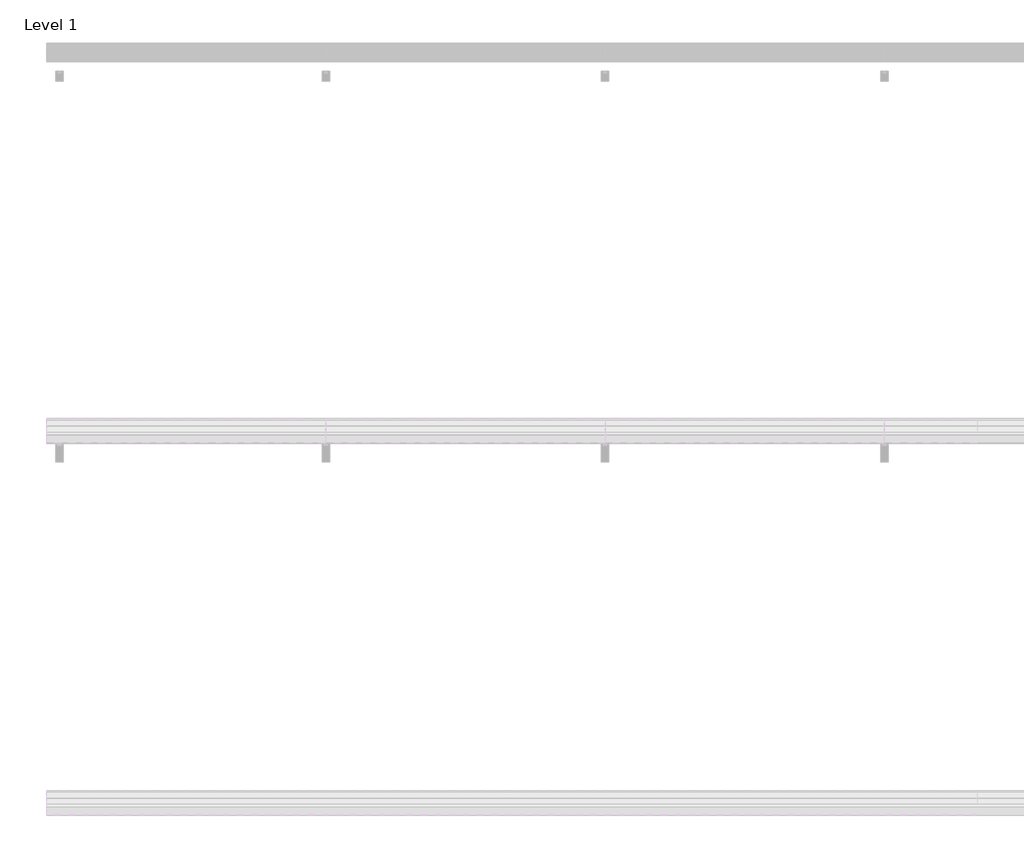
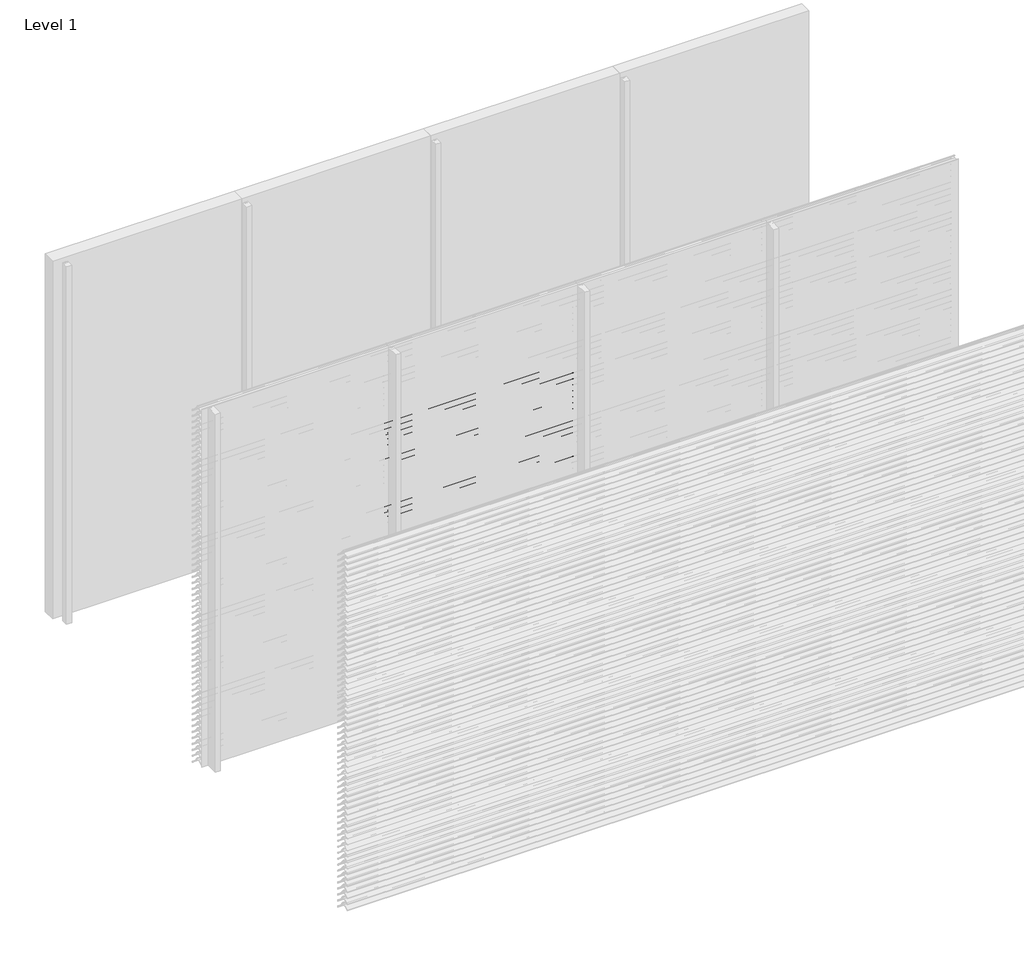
# One storey, part 62 of 173: 17 proxies.
"""IFC4 building model written with IfcOpenShell, lengths in millimetres."""

from ifc_helpers import new_model, si_unit, point, frame, frame_2d, origin, place, context, project, spatial, polyline, circle_curve, trimmed, segment, composite_curve, outline, extrude, element, save

model = new_model("IFC4")

# Units and contexts
model_context = context("Model", 3, world=origin())
ifc_project = project(units=[si_unit("LENGTHUNIT", "METRE", prefix="MILLI")], contexts=[model_context])

# Site, building, storey
site = spatial("IfcSite", under=ifc_project)
building = spatial("IfcBuilding", under=site)
storey = spatial("IfcBuildingStorey", under=building, Name="Level 1", Elevation=0.0)

# Proxies
placement = place(None, origin())
element("IfcBuildingElementProxy", 1, Name="Wall Sweeps", at=placement, inside=storey, context=model_context, shape_type="SweptSolid", body=[
    extrude(outline(composite_curve([segment(polyline([(-35998.0, 2309.1474905), (-35998.0, 2311.6227417)]), True, "CONTINUOUS"), segment(trimmed(circle_curve(frame_2d((-35951.2682172, 2266.2200208)), 65.1557103), [point((-35998.0, 2311.6227417))], [point((-35954.4014323, 2331.3003524))], False, "CARTESIAN"), True, "CONTINUOUS"), segment(polyline([(-35954.4014323, 2331.3003524), (-35934.8315836, 2331.3003524)]), True, "CONTINUOUS"), segment(trimmed(circle_curve(frame_2d((-35732.7329489, 2478.5533172)), 250.0545817), [point((-35934.8315836, 2331.3003524))], [point((-35941.4452143, 2340.8344583))], False, "CARTESIAN"), True, "CONTINUOUS"), segment(trimmed(circle_curve(frame_2d((-35953.2981792, 2335.1737835)), 13.1352966), [point((-35941.4452143, 2340.8344583))], [point((-35953.8171475, 2348.298824))], True, "CARTESIAN"), True, "CONTINUOUS"), segment(polyline([(-35953.8171475, 2348.298824), (-35953.8171475, 2350.0)]), True, "CONTINUOUS"), segment(trimmed(circle_curve(frame_2d((-35953.2981792, 2335.1737835)), 14.8352966), [point((-35953.8171475, 2350.0))], [point((-35939.9637661, 2341.6760487))], False, "CARTESIAN"), True, "CONTINUOUS"), segment(trimmed(circle_curve(frame_2d((-35732.7329489, 2478.5533172)), 248.3545817), [point((-35939.9637661, 2341.6760487))], [point((-35873.8787895, 2274.2059416))], True, "CARTESIAN"), True, "CONTINUOUS"), segment(trimmed(circle_curve(frame_2d((-35883.8147537, 2261.6649442)), 16.0), [point((-35873.8787895, 2274.2059416))], [point((-35867.8648347, 2260.4))], False, "CARTESIAN"), True, "CONTINUOUS"), segment(polyline([(-35867.8648347, 2260.4), (-35869.6712069, 2260.4)]), True, "CONTINUOUS"), segment(trimmed(circle_curve(frame_2d((-35883.8147537, 2261.6649442)), 14.2), [point((-35869.6712069, 2260.4))], [point((-35874.9518628, 2272.7594998))], True, "CARTESIAN"), True, "CONTINUOUS"), segment(trimmed(circle_curve(frame_2d((-35732.7329489, 2478.5533172)), 250.1545817), [point((-35874.9518628, 2272.7594998))], [point((-35933.7064024, 2329.6003524))], False, "CARTESIAN"), True, "CONTINUOUS"), segment(polyline([(-35933.7064024, 2329.6003524), (-35954.3602632, 2329.6003524)]), True, "CONTINUOUS"), segment(trimmed(circle_curve(frame_2d((-35951.2682172, 2266.2200208)), 63.4557103), [point((-35954.3602632, 2329.6003524))], [point((-35998.0, 2309.1474905))], True, "CARTESIAN"), True, "CONTINUOUS")], self_intersect=False)), frame((1500.0, 0.0, 0.0), z_axis=(1.0, 0.0, 0.0), x_axis=(0.0, 1.0, 0.0)), (0.0, 0.0, 1.0), 1500.0),
])
element("IfcBuildingElementProxy", 2, Name="Wall Sweeps", at=placement, inside=storey, context=model_context, shape_type="SweptSolid", body=[
    extrude(outline(composite_curve([segment(polyline([(-35998.0, 2259.1474905), (-35998.0, 2261.6227417)]), True, "CONTINUOUS"), segment(trimmed(circle_curve(frame_2d((-35951.2682172, 2216.2200208)), 65.1557103), [point((-35998.0, 2261.6227417))], [point((-35954.4014323, 2281.3003524))], False, "CARTESIAN"), True, "CONTINUOUS"), segment(polyline([(-35954.4014323, 2281.3003524), (-35934.8315836, 2281.3003524)]), True, "CONTINUOUS"), segment(trimmed(circle_curve(frame_2d((-35732.7329489, 2428.5533172)), 250.0545817), [point((-35934.8315836, 2281.3003524))], [point((-35941.4452143, 2290.8344583))], False, "CARTESIAN"), True, "CONTINUOUS"), segment(trimmed(circle_curve(frame_2d((-35953.2981792, 2285.1737835)), 13.1352966), [point((-35941.4452143, 2290.8344583))], [point((-35953.8171475, 2298.298824))], True, "CARTESIAN"), True, "CONTINUOUS"), segment(polyline([(-35953.8171475, 2298.298824), (-35953.8171475, 2300.0)]), True, "CONTINUOUS"), segment(trimmed(circle_curve(frame_2d((-35953.2981792, 2285.1737835)), 14.8352966), [point((-35953.8171475, 2300.0))], [point((-35939.9637661, 2291.6760487))], False, "CARTESIAN"), True, "CONTINUOUS"), segment(trimmed(circle_curve(frame_2d((-35732.7329489, 2428.5533172)), 248.3545817), [point((-35939.9637661, 2291.6760487))], [point((-35873.8787895, 2224.2059416))], True, "CARTESIAN"), True, "CONTINUOUS"), segment(trimmed(circle_curve(frame_2d((-35883.8147537, 2211.6649442)), 16.0), [point((-35873.8787895, 2224.2059416))], [point((-35867.8648347, 2210.4))], False, "CARTESIAN"), True, "CONTINUOUS"), segment(polyline([(-35867.8648347, 2210.4), (-35869.6712069, 2210.4)]), True, "CONTINUOUS"), segment(trimmed(circle_curve(frame_2d((-35883.8147537, 2211.6649442)), 14.2), [point((-35869.6712069, 2210.4))], [point((-35874.9518628, 2222.7594998))], True, "CARTESIAN"), True, "CONTINUOUS"), segment(trimmed(circle_curve(frame_2d((-35732.7329489, 2428.5533172)), 250.1545817), [point((-35874.9518628, 2222.7594998))], [point((-35933.7064024, 2279.6003524))], False, "CARTESIAN"), True, "CONTINUOUS"), segment(polyline([(-35933.7064024, 2279.6003524), (-35954.3602632, 2279.6003524)]), True, "CONTINUOUS"), segment(trimmed(circle_curve(frame_2d((-35951.2682172, 2216.2200208)), 63.4557103), [point((-35954.3602632, 2279.6003524))], [point((-35998.0, 2259.1474905))], True, "CARTESIAN"), True, "CONTINUOUS")], self_intersect=False)), frame((1500.0, 0.0, 0.0), z_axis=(1.0, 0.0, 0.0), x_axis=(0.0, 1.0, 0.0)), (0.0, 0.0, 1.0), 1500.0),
])
element("IfcBuildingElementProxy", 3, Name="Wall Sweeps", at=placement, inside=storey, context=model_context, shape_type="SweptSolid", body=[
    extrude(outline(composite_curve([segment(polyline([(-35998.0, 2209.1474905), (-35998.0, 2211.6227417)]), True, "CONTINUOUS"), segment(trimmed(circle_curve(frame_2d((-35951.2682172, 2166.2200208)), 65.1557103), [point((-35998.0, 2211.6227417))], [point((-35954.4014323, 2231.3003524))], False, "CARTESIAN"), True, "CONTINUOUS"), segment(polyline([(-35954.4014323, 2231.3003524), (-35934.8315836, 2231.3003524)]), True, "CONTINUOUS"), segment(trimmed(circle_curve(frame_2d((-35732.7329489, 2378.5533172)), 250.0545817), [point((-35934.8315836, 2231.3003524))], [point((-35941.4452143, 2240.8344583))], False, "CARTESIAN"), True, "CONTINUOUS"), segment(trimmed(circle_curve(frame_2d((-35953.2981792, 2235.1737835)), 13.1352966), [point((-35941.4452143, 2240.8344583))], [point((-35953.8171475, 2248.298824))], True, "CARTESIAN"), True, "CONTINUOUS"), segment(polyline([(-35953.8171475, 2248.298824), (-35953.8171475, 2250.0)]), True, "CONTINUOUS"), segment(trimmed(circle_curve(frame_2d((-35953.2981792, 2235.1737835)), 14.8352966), [point((-35953.8171475, 2250.0))], [point((-35939.9637661, 2241.6760487))], False, "CARTESIAN"), True, "CONTINUOUS"), segment(trimmed(circle_curve(frame_2d((-35732.7329489, 2378.5533172)), 248.3545817), [point((-35939.9637661, 2241.6760487))], [point((-35873.8787895, 2174.2059416))], True, "CARTESIAN"), True, "CONTINUOUS"), segment(trimmed(circle_curve(frame_2d((-35883.8147537, 2161.6649442)), 16.0), [point((-35873.8787895, 2174.2059416))], [point((-35867.8648347, 2160.4))], False, "CARTESIAN"), True, "CONTINUOUS"), segment(polyline([(-35867.8648347, 2160.4), (-35869.6712069, 2160.4)]), True, "CONTINUOUS"), segment(trimmed(circle_curve(frame_2d((-35883.8147537, 2161.6649442)), 14.2), [point((-35869.6712069, 2160.4))], [point((-35874.9518628, 2172.7594998))], True, "CARTESIAN"), True, "CONTINUOUS"), segment(trimmed(circle_curve(frame_2d((-35732.7329489, 2378.5533172)), 250.1545817), [point((-35874.9518628, 2172.7594998))], [point((-35933.7064024, 2229.6003524))], False, "CARTESIAN"), True, "CONTINUOUS"), segment(polyline([(-35933.7064024, 2229.6003524), (-35954.3602632, 2229.6003524)]), True, "CONTINUOUS"), segment(trimmed(circle_curve(frame_2d((-35951.2682172, 2166.2200208)), 63.4557103), [point((-35954.3602632, 2229.6003524))], [point((-35998.0, 2209.1474905))], True, "CARTESIAN"), True, "CONTINUOUS")], self_intersect=False)), frame((1500.0, 0.0, 0.0), z_axis=(1.0, 0.0, 0.0), x_axis=(0.0, 1.0, 0.0)), (0.0, 0.0, 1.0), 1500.0),
])
element("IfcBuildingElementProxy", 4, Name="Wall Sweeps", at=placement, inside=storey, context=model_context, shape_type="SweptSolid", body=[
    extrude(outline(composite_curve([segment(polyline([(-35998.0, 2159.1474905), (-35998.0, 2161.6227417)]), True, "CONTINUOUS"), segment(trimmed(circle_curve(frame_2d((-35951.2682172, 2116.2200208)), 65.1557103), [point((-35998.0, 2161.6227417))], [point((-35954.4014323, 2181.3003524))], False, "CARTESIAN"), True, "CONTINUOUS"), segment(polyline([(-35954.4014323, 2181.3003524), (-35934.8315836, 2181.3003524)]), True, "CONTINUOUS"), segment(trimmed(circle_curve(frame_2d((-35732.7329489, 2328.5533172)), 250.0545817), [point((-35934.8315836, 2181.3003524))], [point((-35941.4452143, 2190.8344583))], False, "CARTESIAN"), True, "CONTINUOUS"), segment(trimmed(circle_curve(frame_2d((-35953.2981792, 2185.1737835)), 13.1352966), [point((-35941.4452143, 2190.8344583))], [point((-35953.8171475, 2198.298824))], True, "CARTESIAN"), True, "CONTINUOUS"), segment(polyline([(-35953.8171475, 2198.298824), (-35953.8171475, 2200.0)]), True, "CONTINUOUS"), segment(trimmed(circle_curve(frame_2d((-35953.2981792, 2185.1737835)), 14.8352966), [point((-35953.8171475, 2200.0))], [point((-35939.9637661, 2191.6760487))], False, "CARTESIAN"), True, "CONTINUOUS"), segment(trimmed(circle_curve(frame_2d((-35732.7329489, 2328.5533172)), 248.3545817), [point((-35939.9637661, 2191.6760487))], [point((-35873.8787895, 2124.2059416))], True, "CARTESIAN"), True, "CONTINUOUS"), segment(trimmed(circle_curve(frame_2d((-35883.8147537, 2111.6649442)), 16.0), [point((-35873.8787895, 2124.2059416))], [point((-35867.8648347, 2110.4))], False, "CARTESIAN"), True, "CONTINUOUS"), segment(polyline([(-35867.8648347, 2110.4), (-35869.6712069, 2110.4)]), True, "CONTINUOUS"), segment(trimmed(circle_curve(frame_2d((-35883.8147537, 2111.6649442)), 14.2), [point((-35869.6712069, 2110.4))], [point((-35874.9518628, 2122.7594998))], True, "CARTESIAN"), True, "CONTINUOUS"), segment(trimmed(circle_curve(frame_2d((-35732.7329489, 2328.5533172)), 250.1545817), [point((-35874.9518628, 2122.7594998))], [point((-35933.7064024, 2179.6003524))], False, "CARTESIAN"), True, "CONTINUOUS"), segment(polyline([(-35933.7064024, 2179.6003524), (-35954.3602632, 2179.6003524)]), True, "CONTINUOUS"), segment(trimmed(circle_curve(frame_2d((-35951.2682172, 2116.2200208)), 63.4557103), [point((-35954.3602632, 2179.6003524))], [point((-35998.0, 2159.1474905))], True, "CARTESIAN"), True, "CONTINUOUS")], self_intersect=False)), frame((1500.0, 0.0, 0.0), z_axis=(1.0, 0.0, 0.0), x_axis=(0.0, 1.0, 0.0)), (0.0, 0.0, 1.0), 1500.0),
])
element("IfcBuildingElementProxy", 5, Name="Wall Sweeps", at=placement, inside=storey, context=model_context, shape_type="SweptSolid", body=[
    extrude(outline(composite_curve([segment(polyline([(-35998.0, 2109.1474905), (-35998.0, 2111.6227417)]), True, "CONTINUOUS"), segment(trimmed(circle_curve(frame_2d((-35951.2682172, 2066.2200208)), 65.1557103), [point((-35998.0, 2111.6227417))], [point((-35954.4014323, 2131.3003524))], False, "CARTESIAN"), True, "CONTINUOUS"), segment(polyline([(-35954.4014323, 2131.3003524), (-35934.8315836, 2131.3003524)]), True, "CONTINUOUS"), segment(trimmed(circle_curve(frame_2d((-35732.7329489, 2278.5533172)), 250.0545817), [point((-35934.8315836, 2131.3003524))], [point((-35941.4452143, 2140.8344583))], False, "CARTESIAN"), True, "CONTINUOUS"), segment(trimmed(circle_curve(frame_2d((-35953.2981792, 2135.1737835)), 13.1352966), [point((-35941.4452143, 2140.8344583))], [point((-35953.8171475, 2148.298824))], True, "CARTESIAN"), True, "CONTINUOUS"), segment(polyline([(-35953.8171475, 2148.298824), (-35953.8171475, 2150.0)]), True, "CONTINUOUS"), segment(trimmed(circle_curve(frame_2d((-35953.2981792, 2135.1737835)), 14.8352966), [point((-35953.8171475, 2150.0))], [point((-35939.9637661, 2141.6760487))], False, "CARTESIAN"), True, "CONTINUOUS"), segment(trimmed(circle_curve(frame_2d((-35732.7329489, 2278.5533172)), 248.3545817), [point((-35939.9637661, 2141.6760487))], [point((-35873.8787895, 2074.2059416))], True, "CARTESIAN"), True, "CONTINUOUS"), segment(trimmed(circle_curve(frame_2d((-35883.8147537, 2061.6649442)), 16.0), [point((-35873.8787895, 2074.2059416))], [point((-35867.8648347, 2060.4))], False, "CARTESIAN"), True, "CONTINUOUS"), segment(polyline([(-35867.8648347, 2060.4), (-35869.6712069, 2060.4)]), True, "CONTINUOUS"), segment(trimmed(circle_curve(frame_2d((-35883.8147537, 2061.6649442)), 14.2), [point((-35869.6712069, 2060.4))], [point((-35874.9518628, 2072.7594998))], True, "CARTESIAN"), True, "CONTINUOUS"), segment(trimmed(circle_curve(frame_2d((-35732.7329489, 2278.5533172)), 250.1545817), [point((-35874.9518628, 2072.7594998))], [point((-35933.7064024, 2129.6003524))], False, "CARTESIAN"), True, "CONTINUOUS"), segment(polyline([(-35933.7064024, 2129.6003524), (-35954.3602632, 2129.6003524)]), True, "CONTINUOUS"), segment(trimmed(circle_curve(frame_2d((-35951.2682172, 2066.2200208)), 63.4557103), [point((-35954.3602632, 2129.6003524))], [point((-35998.0, 2109.1474905))], True, "CARTESIAN"), True, "CONTINUOUS")], self_intersect=False)), frame((1500.0, 0.0, 0.0), z_axis=(1.0, 0.0, 0.0), x_axis=(0.0, 1.0, 0.0)), (0.0, 0.0, 1.0), 1500.0),
])
element("IfcBuildingElementProxy", 6, Name="Wall Sweeps", at=placement, inside=storey, context=model_context, shape_type="SweptSolid", body=[
    extrude(outline(composite_curve([segment(polyline([(-35998.0, 2059.1474905), (-35998.0, 2061.6227417)]), True, "CONTINUOUS"), segment(trimmed(circle_curve(frame_2d((-35951.2682172, 2016.2200208)), 65.1557103), [point((-35998.0, 2061.6227417))], [point((-35954.4014323, 2081.3003524))], False, "CARTESIAN"), True, "CONTINUOUS"), segment(polyline([(-35954.4014323, 2081.3003524), (-35934.8315836, 2081.3003524)]), True, "CONTINUOUS"), segment(trimmed(circle_curve(frame_2d((-35732.7329489, 2228.5533172)), 250.0545817), [point((-35934.8315836, 2081.3003524))], [point((-35941.4452143, 2090.8344583))], False, "CARTESIAN"), True, "CONTINUOUS"), segment(trimmed(circle_curve(frame_2d((-35953.2981792, 2085.1737835)), 13.1352966), [point((-35941.4452143, 2090.8344583))], [point((-35953.8171475, 2098.298824))], True, "CARTESIAN"), True, "CONTINUOUS"), segment(polyline([(-35953.8171475, 2098.298824), (-35953.8171475, 2100.0)]), True, "CONTINUOUS"), segment(trimmed(circle_curve(frame_2d((-35953.2981792, 2085.1737835)), 14.8352966), [point((-35953.8171475, 2100.0))], [point((-35939.9637661, 2091.6760487))], False, "CARTESIAN"), True, "CONTINUOUS"), segment(trimmed(circle_curve(frame_2d((-35732.7329489, 2228.5533172)), 248.3545817), [point((-35939.9637661, 2091.6760487))], [point((-35873.8787895, 2024.2059416))], True, "CARTESIAN"), True, "CONTINUOUS"), segment(trimmed(circle_curve(frame_2d((-35883.8147537, 2011.6649442)), 16.0), [point((-35873.8787895, 2024.2059416))], [point((-35867.8648347, 2010.4))], False, "CARTESIAN"), True, "CONTINUOUS"), segment(polyline([(-35867.8648347, 2010.4), (-35869.6712069, 2010.4)]), True, "CONTINUOUS"), segment(trimmed(circle_curve(frame_2d((-35883.8147537, 2011.6649442)), 14.2), [point((-35869.6712069, 2010.4))], [point((-35874.9518628, 2022.7594998))], True, "CARTESIAN"), True, "CONTINUOUS"), segment(trimmed(circle_curve(frame_2d((-35732.7329489, 2228.5533172)), 250.1545817), [point((-35874.9518628, 2022.7594998))], [point((-35933.7064024, 2079.6003524))], False, "CARTESIAN"), True, "CONTINUOUS"), segment(polyline([(-35933.7064024, 2079.6003524), (-35954.3602632, 2079.6003524)]), True, "CONTINUOUS"), segment(trimmed(circle_curve(frame_2d((-35951.2682172, 2016.2200208)), 63.4557103), [point((-35954.3602632, 2079.6003524))], [point((-35998.0, 2059.1474905))], True, "CARTESIAN"), True, "CONTINUOUS")], self_intersect=False)), frame((1500.0, 0.0, 0.0), z_axis=(1.0, 0.0, 0.0), x_axis=(0.0, 1.0, 0.0)), (0.0, 0.0, 1.0), 1500.0),
])
element("IfcBuildingElementProxy", 7, Name="Wall Sweeps", at=placement, inside=storey, context=model_context, shape_type="SweptSolid", body=[
    extrude(outline(composite_curve([segment(polyline([(-35998.0, 2009.1474905), (-35998.0, 2011.6227417)]), True, "CONTINUOUS"), segment(trimmed(circle_curve(frame_2d((-35951.2682172, 1966.2200208)), 65.1557103), [point((-35998.0, 2011.6227417))], [point((-35954.4014323, 2031.3003524))], False, "CARTESIAN"), True, "CONTINUOUS"), segment(polyline([(-35954.4014323, 2031.3003524), (-35934.8315836, 2031.3003524)]), True, "CONTINUOUS"), segment(trimmed(circle_curve(frame_2d((-35732.7329489, 2178.5533172)), 250.0545817), [point((-35934.8315836, 2031.3003524))], [point((-35941.4452143, 2040.8344583))], False, "CARTESIAN"), True, "CONTINUOUS"), segment(trimmed(circle_curve(frame_2d((-35953.2981792, 2035.1737835)), 13.1352966), [point((-35941.4452143, 2040.8344583))], [point((-35953.8171475, 2048.298824))], True, "CARTESIAN"), True, "CONTINUOUS"), segment(polyline([(-35953.8171475, 2048.298824), (-35953.8171475, 2050.0)]), True, "CONTINUOUS"), segment(trimmed(circle_curve(frame_2d((-35953.2981792, 2035.1737835)), 14.8352966), [point((-35953.8171475, 2050.0))], [point((-35939.9637661, 2041.6760487))], False, "CARTESIAN"), True, "CONTINUOUS"), segment(trimmed(circle_curve(frame_2d((-35732.7329489, 2178.5533172)), 248.3545817), [point((-35939.9637661, 2041.6760487))], [point((-35873.8787895, 1974.2059416))], True, "CARTESIAN"), True, "CONTINUOUS"), segment(trimmed(circle_curve(frame_2d((-35883.8147537, 1961.6649442)), 16.0), [point((-35873.8787895, 1974.2059416))], [point((-35867.8648347, 1960.4))], False, "CARTESIAN"), True, "CONTINUOUS"), segment(polyline([(-35867.8648347, 1960.4), (-35869.6712069, 1960.4)]), True, "CONTINUOUS"), segment(trimmed(circle_curve(frame_2d((-35883.8147537, 1961.6649442)), 14.2), [point((-35869.6712069, 1960.4))], [point((-35874.9518628, 1972.7594998))], True, "CARTESIAN"), True, "CONTINUOUS"), segment(trimmed(circle_curve(frame_2d((-35732.7329489, 2178.5533172)), 250.1545817), [point((-35874.9518628, 1972.7594998))], [point((-35933.7064024, 2029.6003524))], False, "CARTESIAN"), True, "CONTINUOUS"), segment(polyline([(-35933.7064024, 2029.6003524), (-35954.3602632, 2029.6003524)]), True, "CONTINUOUS"), segment(trimmed(circle_curve(frame_2d((-35951.2682172, 1966.2200208)), 63.4557103), [point((-35954.3602632, 2029.6003524))], [point((-35998.0, 2009.1474905))], True, "CARTESIAN"), True, "CONTINUOUS")], self_intersect=False)), frame((1500.0, 0.0, 0.0), z_axis=(1.0, 0.0, 0.0), x_axis=(0.0, 1.0, 0.0)), (0.0, 0.0, 1.0), 1500.0),
])
element("IfcBuildingElementProxy", 8, Name="Wall Sweeps", at=placement, inside=storey, context=model_context, shape_type="SweptSolid", body=[
    extrude(outline(composite_curve([segment(polyline([(-35998.0, 1959.1474905), (-35998.0, 1961.6227417)]), True, "CONTINUOUS"), segment(trimmed(circle_curve(frame_2d((-35951.2682172, 1916.2200208)), 65.1557103), [point((-35998.0, 1961.6227417))], [point((-35954.4014323, 1981.3003524))], False, "CARTESIAN"), True, "CONTINUOUS"), segment(polyline([(-35954.4014323, 1981.3003524), (-35934.8315836, 1981.3003524)]), True, "CONTINUOUS"), segment(trimmed(circle_curve(frame_2d((-35732.7329489, 2128.5533172)), 250.0545817), [point((-35934.8315836, 1981.3003524))], [point((-35941.4452143, 1990.8344583))], False, "CARTESIAN"), True, "CONTINUOUS"), segment(trimmed(circle_curve(frame_2d((-35953.2981792, 1985.1737835)), 13.1352966), [point((-35941.4452143, 1990.8344583))], [point((-35953.8171475, 1998.298824))], True, "CARTESIAN"), True, "CONTINUOUS"), segment(polyline([(-35953.8171475, 1998.298824), (-35953.8171475, 2000.0)]), True, "CONTINUOUS"), segment(trimmed(circle_curve(frame_2d((-35953.2981792, 1985.1737835)), 14.8352966), [point((-35953.8171475, 2000.0))], [point((-35939.9637661, 1991.6760487))], False, "CARTESIAN"), True, "CONTINUOUS"), segment(trimmed(circle_curve(frame_2d((-35732.7329489, 2128.5533172)), 248.3545817), [point((-35939.9637661, 1991.6760487))], [point((-35873.8787895, 1924.2059416))], True, "CARTESIAN"), True, "CONTINUOUS"), segment(trimmed(circle_curve(frame_2d((-35883.8147537, 1911.6649442)), 16.0), [point((-35873.8787895, 1924.2059416))], [point((-35867.8648347, 1910.4))], False, "CARTESIAN"), True, "CONTINUOUS"), segment(polyline([(-35867.8648347, 1910.4), (-35869.6712069, 1910.4)]), True, "CONTINUOUS"), segment(trimmed(circle_curve(frame_2d((-35883.8147537, 1911.6649442)), 14.2), [point((-35869.6712069, 1910.4))], [point((-35874.9518628, 1922.7594998))], True, "CARTESIAN"), True, "CONTINUOUS"), segment(trimmed(circle_curve(frame_2d((-35732.7329489, 2128.5533172)), 250.1545817), [point((-35874.9518628, 1922.7594998))], [point((-35933.7064024, 1979.6003524))], False, "CARTESIAN"), True, "CONTINUOUS"), segment(polyline([(-35933.7064024, 1979.6003524), (-35954.3602632, 1979.6003524)]), True, "CONTINUOUS"), segment(trimmed(circle_curve(frame_2d((-35951.2682172, 1916.2200208)), 63.4557103), [point((-35954.3602632, 1979.6003524))], [point((-35998.0, 1959.1474905))], True, "CARTESIAN"), True, "CONTINUOUS")], self_intersect=False)), frame((1500.0, 0.0, 0.0), z_axis=(1.0, 0.0, 0.0), x_axis=(0.0, 1.0, 0.0)), (0.0, 0.0, 1.0), 1500.0),
])
element("IfcBuildingElementProxy", 9, Name="Wall Sweeps", at=placement, inside=storey, context=model_context, shape_type="SweptSolid", body=[
    extrude(outline(composite_curve([segment(polyline([(-35998.0, 1909.1474905), (-35998.0, 1911.6227417)]), True, "CONTINUOUS"), segment(trimmed(circle_curve(frame_2d((-35951.2682172, 1866.2200208)), 65.1557103), [point((-35998.0, 1911.6227417))], [point((-35954.4014323, 1931.3003524))], False, "CARTESIAN"), True, "CONTINUOUS"), segment(polyline([(-35954.4014323, 1931.3003524), (-35934.8315836, 1931.3003524)]), True, "CONTINUOUS"), segment(trimmed(circle_curve(frame_2d((-35732.7329489, 2078.5533172)), 250.0545817), [point((-35934.8315836, 1931.3003524))], [point((-35941.4452143, 1940.8344583))], False, "CARTESIAN"), True, "CONTINUOUS"), segment(trimmed(circle_curve(frame_2d((-35953.2981792, 1935.1737835)), 13.1352966), [point((-35941.4452143, 1940.8344583))], [point((-35953.8171475, 1948.298824))], True, "CARTESIAN"), True, "CONTINUOUS"), segment(polyline([(-35953.8171475, 1948.298824), (-35953.8171475, 1950.0)]), True, "CONTINUOUS"), segment(trimmed(circle_curve(frame_2d((-35953.2981792, 1935.1737835)), 14.8352966), [point((-35953.8171475, 1950.0))], [point((-35939.9637661, 1941.6760487))], False, "CARTESIAN"), True, "CONTINUOUS"), segment(trimmed(circle_curve(frame_2d((-35732.7329489, 2078.5533172)), 248.3545817), [point((-35939.9637661, 1941.6760487))], [point((-35873.8787895, 1874.2059416))], True, "CARTESIAN"), True, "CONTINUOUS"), segment(trimmed(circle_curve(frame_2d((-35883.8147537, 1861.6649442)), 16.0), [point((-35873.8787895, 1874.2059416))], [point((-35867.8648347, 1860.4))], False, "CARTESIAN"), True, "CONTINUOUS"), segment(polyline([(-35867.8648347, 1860.4), (-35869.6712069, 1860.4)]), True, "CONTINUOUS"), segment(trimmed(circle_curve(frame_2d((-35883.8147537, 1861.6649442)), 14.2), [point((-35869.6712069, 1860.4))], [point((-35874.9518628, 1872.7594998))], True, "CARTESIAN"), True, "CONTINUOUS"), segment(trimmed(circle_curve(frame_2d((-35732.7329489, 2078.5533172)), 250.1545817), [point((-35874.9518628, 1872.7594998))], [point((-35933.7064024, 1929.6003524))], False, "CARTESIAN"), True, "CONTINUOUS"), segment(polyline([(-35933.7064024, 1929.6003524), (-35954.3602632, 1929.6003524)]), True, "CONTINUOUS"), segment(trimmed(circle_curve(frame_2d((-35951.2682172, 1866.2200208)), 63.4557103), [point((-35954.3602632, 1929.6003524))], [point((-35998.0, 1909.1474905))], True, "CARTESIAN"), True, "CONTINUOUS")], self_intersect=False)), frame((1500.0, 0.0, 0.0), z_axis=(1.0, 0.0, 0.0), x_axis=(0.0, 1.0, 0.0)), (0.0, 0.0, 1.0), 1500.0),
])
element("IfcBuildingElementProxy", 10, Name="Wall Sweeps", at=placement, inside=storey, context=model_context, shape_type="SweptSolid", body=[
    extrude(outline(composite_curve([segment(polyline([(-35998.0, 1859.1474905), (-35998.0, 1861.6227417)]), True, "CONTINUOUS"), segment(trimmed(circle_curve(frame_2d((-35951.2682172, 1816.2200208)), 65.1557103), [point((-35998.0, 1861.6227417))], [point((-35954.4014323, 1881.3003524))], False, "CARTESIAN"), True, "CONTINUOUS"), segment(polyline([(-35954.4014323, 1881.3003524), (-35934.8315836, 1881.3003524)]), True, "CONTINUOUS"), segment(trimmed(circle_curve(frame_2d((-35732.7329489, 2028.5533172)), 250.0545817), [point((-35934.8315836, 1881.3003524))], [point((-35941.4452143, 1890.8344583))], False, "CARTESIAN"), True, "CONTINUOUS"), segment(trimmed(circle_curve(frame_2d((-35953.2981792, 1885.1737835)), 13.1352966), [point((-35941.4452143, 1890.8344583))], [point((-35953.8171475, 1898.298824))], True, "CARTESIAN"), True, "CONTINUOUS"), segment(polyline([(-35953.8171475, 1898.298824), (-35953.8171475, 1900.0)]), True, "CONTINUOUS"), segment(trimmed(circle_curve(frame_2d((-35953.2981792, 1885.1737835)), 14.8352966), [point((-35953.8171475, 1900.0))], [point((-35939.9637661, 1891.6760487))], False, "CARTESIAN"), True, "CONTINUOUS"), segment(trimmed(circle_curve(frame_2d((-35732.7329489, 2028.5533172)), 248.3545817), [point((-35939.9637661, 1891.6760487))], [point((-35873.8787895, 1824.2059416))], True, "CARTESIAN"), True, "CONTINUOUS"), segment(trimmed(circle_curve(frame_2d((-35883.8147537, 1811.6649442)), 16.0), [point((-35873.8787895, 1824.2059416))], [point((-35867.8648347, 1810.4))], False, "CARTESIAN"), True, "CONTINUOUS"), segment(polyline([(-35867.8648347, 1810.4), (-35869.6712069, 1810.4)]), True, "CONTINUOUS"), segment(trimmed(circle_curve(frame_2d((-35883.8147537, 1811.6649442)), 14.2), [point((-35869.6712069, 1810.4))], [point((-35874.9518628, 1822.7594998))], True, "CARTESIAN"), True, "CONTINUOUS"), segment(trimmed(circle_curve(frame_2d((-35732.7329489, 2028.5533172)), 250.1545817), [point((-35874.9518628, 1822.7594998))], [point((-35933.7064024, 1879.6003524))], False, "CARTESIAN"), True, "CONTINUOUS"), segment(polyline([(-35933.7064024, 1879.6003524), (-35954.3602632, 1879.6003524)]), True, "CONTINUOUS"), segment(trimmed(circle_curve(frame_2d((-35951.2682172, 1816.2200208)), 63.4557103), [point((-35954.3602632, 1879.6003524))], [point((-35998.0, 1859.1474905))], True, "CARTESIAN"), True, "CONTINUOUS")], self_intersect=False)), frame((1500.0, 0.0, 0.0), z_axis=(1.0, 0.0, 0.0), x_axis=(0.0, 1.0, 0.0)), (0.0, 0.0, 1.0), 1500.0),
])
element("IfcBuildingElementProxy", 11, Name="Wall Sweeps", at=placement, inside=storey, context=model_context, shape_type="SweptSolid", body=[
    extrude(outline(composite_curve([segment(polyline([(-35998.0, 1809.1474905), (-35998.0, 1811.6227417)]), True, "CONTINUOUS"), segment(trimmed(circle_curve(frame_2d((-35951.2682172, 1766.2200208)), 65.1557103), [point((-35998.0, 1811.6227417))], [point((-35954.4014323, 1831.3003524))], False, "CARTESIAN"), True, "CONTINUOUS"), segment(polyline([(-35954.4014323, 1831.3003524), (-35934.8315836, 1831.3003524)]), True, "CONTINUOUS"), segment(trimmed(circle_curve(frame_2d((-35732.7329489, 1978.5533172)), 250.0545817), [point((-35934.8315836, 1831.3003524))], [point((-35941.4452143, 1840.8344583))], False, "CARTESIAN"), True, "CONTINUOUS"), segment(trimmed(circle_curve(frame_2d((-35953.2981792, 1835.1737835)), 13.1352966), [point((-35941.4452143, 1840.8344583))], [point((-35953.8171475, 1848.298824))], True, "CARTESIAN"), True, "CONTINUOUS"), segment(polyline([(-35953.8171475, 1848.298824), (-35953.8171475, 1850.0)]), True, "CONTINUOUS"), segment(trimmed(circle_curve(frame_2d((-35953.2981792, 1835.1737835)), 14.8352966), [point((-35953.8171475, 1850.0))], [point((-35939.9637661, 1841.6760487))], False, "CARTESIAN"), True, "CONTINUOUS"), segment(trimmed(circle_curve(frame_2d((-35732.7329489, 1978.5533172)), 248.3545817), [point((-35939.9637661, 1841.6760487))], [point((-35873.8787895, 1774.2059416))], True, "CARTESIAN"), True, "CONTINUOUS"), segment(trimmed(circle_curve(frame_2d((-35883.8147537, 1761.6649442)), 16.0), [point((-35873.8787895, 1774.2059416))], [point((-35867.8648347, 1760.4))], False, "CARTESIAN"), True, "CONTINUOUS"), segment(polyline([(-35867.8648347, 1760.4), (-35869.6712069, 1760.4)]), True, "CONTINUOUS"), segment(trimmed(circle_curve(frame_2d((-35883.8147537, 1761.6649442)), 14.2), [point((-35869.6712069, 1760.4))], [point((-35874.9518628, 1772.7594998))], True, "CARTESIAN"), True, "CONTINUOUS"), segment(trimmed(circle_curve(frame_2d((-35732.7329489, 1978.5533172)), 250.1545817), [point((-35874.9518628, 1772.7594998))], [point((-35933.7064024, 1829.6003524))], False, "CARTESIAN"), True, "CONTINUOUS"), segment(polyline([(-35933.7064024, 1829.6003524), (-35954.3602632, 1829.6003524)]), True, "CONTINUOUS"), segment(trimmed(circle_curve(frame_2d((-35951.2682172, 1766.2200208)), 63.4557103), [point((-35954.3602632, 1829.6003524))], [point((-35998.0, 1809.1474905))], True, "CARTESIAN"), True, "CONTINUOUS")], self_intersect=False)), frame((1500.0, 0.0, 0.0), z_axis=(1.0, 0.0, 0.0), x_axis=(0.0, 1.0, 0.0)), (0.0, 0.0, 1.0), 1500.0),
])
element("IfcBuildingElementProxy", 12, Name="Wall Sweeps", at=placement, inside=storey, context=model_context, shape_type="SweptSolid", body=[
    extrude(outline(composite_curve([segment(polyline([(-35998.0, 1759.1474905), (-35998.0, 1761.6227417)]), True, "CONTINUOUS"), segment(trimmed(circle_curve(frame_2d((-35951.2682172, 1716.2200208)), 65.1557103), [point((-35998.0, 1761.6227417))], [point((-35954.4014323, 1781.3003524))], False, "CARTESIAN"), True, "CONTINUOUS"), segment(polyline([(-35954.4014323, 1781.3003524), (-35934.8315836, 1781.3003524)]), True, "CONTINUOUS"), segment(trimmed(circle_curve(frame_2d((-35732.7329489, 1928.5533172)), 250.0545817), [point((-35934.8315836, 1781.3003524))], [point((-35941.4452143, 1790.8344583))], False, "CARTESIAN"), True, "CONTINUOUS"), segment(trimmed(circle_curve(frame_2d((-35953.2981792, 1785.1737835)), 13.1352966), [point((-35941.4452143, 1790.8344583))], [point((-35953.8171475, 1798.298824))], True, "CARTESIAN"), True, "CONTINUOUS"), segment(polyline([(-35953.8171475, 1798.298824), (-35953.8171475, 1800.0)]), True, "CONTINUOUS"), segment(trimmed(circle_curve(frame_2d((-35953.2981792, 1785.1737835)), 14.8352966), [point((-35953.8171475, 1800.0))], [point((-35939.9637661, 1791.6760487))], False, "CARTESIAN"), True, "CONTINUOUS"), segment(trimmed(circle_curve(frame_2d((-35732.7329489, 1928.5533172)), 248.3545817), [point((-35939.9637661, 1791.6760487))], [point((-35873.8787895, 1724.2059416))], True, "CARTESIAN"), True, "CONTINUOUS"), segment(trimmed(circle_curve(frame_2d((-35883.8147537, 1711.6649442)), 16.0), [point((-35873.8787895, 1724.2059416))], [point((-35867.8648347, 1710.4))], False, "CARTESIAN"), True, "CONTINUOUS"), segment(polyline([(-35867.8648347, 1710.4), (-35869.6712069, 1710.4)]), True, "CONTINUOUS"), segment(trimmed(circle_curve(frame_2d((-35883.8147537, 1711.6649442)), 14.2), [point((-35869.6712069, 1710.4))], [point((-35874.9518628, 1722.7594998))], True, "CARTESIAN"), True, "CONTINUOUS"), segment(trimmed(circle_curve(frame_2d((-35732.7329489, 1928.5533172)), 250.1545817), [point((-35874.9518628, 1722.7594998))], [point((-35933.7064024, 1779.6003524))], False, "CARTESIAN"), True, "CONTINUOUS"), segment(polyline([(-35933.7064024, 1779.6003524), (-35954.3602632, 1779.6003524)]), True, "CONTINUOUS"), segment(trimmed(circle_curve(frame_2d((-35951.2682172, 1716.2200208)), 63.4557103), [point((-35954.3602632, 1779.6003524))], [point((-35998.0, 1759.1474905))], True, "CARTESIAN"), True, "CONTINUOUS")], self_intersect=False)), frame((1500.0, 0.0, 0.0), z_axis=(1.0, 0.0, 0.0), x_axis=(0.0, 1.0, 0.0)), (0.0, 0.0, 1.0), 1500.0),
])
element("IfcBuildingElementProxy", 13, Name="Wall Sweeps", at=placement, inside=storey, context=model_context, shape_type="SweptSolid", body=[
    extrude(outline(composite_curve([segment(polyline([(-35998.0, 1709.1474905), (-35998.0, 1711.6227417)]), True, "CONTINUOUS"), segment(trimmed(circle_curve(frame_2d((-35951.2682172, 1666.2200208)), 65.1557103), [point((-35998.0, 1711.6227417))], [point((-35954.4014323, 1731.3003524))], False, "CARTESIAN"), True, "CONTINUOUS"), segment(polyline([(-35954.4014323, 1731.3003524), (-35934.8315836, 1731.3003524)]), True, "CONTINUOUS"), segment(trimmed(circle_curve(frame_2d((-35732.7329489, 1878.5533172)), 250.0545817), [point((-35934.8315836, 1731.3003524))], [point((-35941.4452143, 1740.8344583))], False, "CARTESIAN"), True, "CONTINUOUS"), segment(trimmed(circle_curve(frame_2d((-35953.2981792, 1735.1737835)), 13.1352966), [point((-35941.4452143, 1740.8344583))], [point((-35953.8171475, 1748.298824))], True, "CARTESIAN"), True, "CONTINUOUS"), segment(polyline([(-35953.8171475, 1748.298824), (-35953.8171475, 1750.0)]), True, "CONTINUOUS"), segment(trimmed(circle_curve(frame_2d((-35953.2981792, 1735.1737835)), 14.8352966), [point((-35953.8171475, 1750.0))], [point((-35939.9637661, 1741.6760487))], False, "CARTESIAN"), True, "CONTINUOUS"), segment(trimmed(circle_curve(frame_2d((-35732.7329489, 1878.5533172)), 248.3545817), [point((-35939.9637661, 1741.6760487))], [point((-35873.8787895, 1674.2059416))], True, "CARTESIAN"), True, "CONTINUOUS"), segment(trimmed(circle_curve(frame_2d((-35883.8147537, 1661.6649442)), 16.0), [point((-35873.8787895, 1674.2059416))], [point((-35867.8648347, 1660.4))], False, "CARTESIAN"), True, "CONTINUOUS"), segment(polyline([(-35867.8648347, 1660.4), (-35869.6712069, 1660.4)]), True, "CONTINUOUS"), segment(trimmed(circle_curve(frame_2d((-35883.8147537, 1661.6649442)), 14.2), [point((-35869.6712069, 1660.4))], [point((-35874.9518628, 1672.7594998))], True, "CARTESIAN"), True, "CONTINUOUS"), segment(trimmed(circle_curve(frame_2d((-35732.7329489, 1878.5533172)), 250.1545817), [point((-35874.9518628, 1672.7594998))], [point((-35933.7064024, 1729.6003524))], False, "CARTESIAN"), True, "CONTINUOUS"), segment(polyline([(-35933.7064024, 1729.6003524), (-35954.3602632, 1729.6003524)]), True, "CONTINUOUS"), segment(trimmed(circle_curve(frame_2d((-35951.2682172, 1666.2200208)), 63.4557103), [point((-35954.3602632, 1729.6003524))], [point((-35998.0, 1709.1474905))], True, "CARTESIAN"), True, "CONTINUOUS")], self_intersect=False)), frame((1500.0, 0.0, 0.0), z_axis=(1.0, 0.0, 0.0), x_axis=(0.0, 1.0, 0.0)), (0.0, 0.0, 1.0), 1500.0),
])
element("IfcBuildingElementProxy", 14, Name="Wall Sweeps", at=placement, inside=storey, context=model_context, shape_type="SweptSolid", body=[
    extrude(outline(composite_curve([segment(polyline([(-35998.0, 1659.1474905), (-35998.0, 1661.6227417)]), True, "CONTINUOUS"), segment(trimmed(circle_curve(frame_2d((-35951.2682172, 1616.2200208)), 65.1557103), [point((-35998.0, 1661.6227417))], [point((-35954.4014323, 1681.3003524))], False, "CARTESIAN"), True, "CONTINUOUS"), segment(polyline([(-35954.4014323, 1681.3003524), (-35934.8315836, 1681.3003524)]), True, "CONTINUOUS"), segment(trimmed(circle_curve(frame_2d((-35732.7329489, 1828.5533172)), 250.0545817), [point((-35934.8315836, 1681.3003524))], [point((-35941.4452143, 1690.8344583))], False, "CARTESIAN"), True, "CONTINUOUS"), segment(trimmed(circle_curve(frame_2d((-35953.2981792, 1685.1737835)), 13.1352966), [point((-35941.4452143, 1690.8344583))], [point((-35953.8171475, 1698.298824))], True, "CARTESIAN"), True, "CONTINUOUS"), segment(polyline([(-35953.8171475, 1698.298824), (-35953.8171475, 1700.0)]), True, "CONTINUOUS"), segment(trimmed(circle_curve(frame_2d((-35953.2981792, 1685.1737835)), 14.8352966), [point((-35953.8171475, 1700.0))], [point((-35939.9637661, 1691.6760487))], False, "CARTESIAN"), True, "CONTINUOUS"), segment(trimmed(circle_curve(frame_2d((-35732.7329489, 1828.5533172)), 248.3545817), [point((-35939.9637661, 1691.6760487))], [point((-35873.8787895, 1624.2059416))], True, "CARTESIAN"), True, "CONTINUOUS"), segment(trimmed(circle_curve(frame_2d((-35883.8147537, 1611.6649442)), 16.0), [point((-35873.8787895, 1624.2059416))], [point((-35867.8648347, 1610.4))], False, "CARTESIAN"), True, "CONTINUOUS"), segment(polyline([(-35867.8648347, 1610.4), (-35869.6712069, 1610.4)]), True, "CONTINUOUS"), segment(trimmed(circle_curve(frame_2d((-35883.8147537, 1611.6649442)), 14.2), [point((-35869.6712069, 1610.4))], [point((-35874.9518628, 1622.7594998))], True, "CARTESIAN"), True, "CONTINUOUS"), segment(trimmed(circle_curve(frame_2d((-35732.7329489, 1828.5533172)), 250.1545817), [point((-35874.9518628, 1622.7594998))], [point((-35933.7064024, 1679.6003524))], False, "CARTESIAN"), True, "CONTINUOUS"), segment(polyline([(-35933.7064024, 1679.6003524), (-35954.3602632, 1679.6003524)]), True, "CONTINUOUS"), segment(trimmed(circle_curve(frame_2d((-35951.2682172, 1616.2200208)), 63.4557103), [point((-35954.3602632, 1679.6003524))], [point((-35998.0, 1659.1474905))], True, "CARTESIAN"), True, "CONTINUOUS")], self_intersect=False)), frame((1500.0, 0.0, 0.0), z_axis=(1.0, 0.0, 0.0), x_axis=(0.0, 1.0, 0.0)), (0.0, 0.0, 1.0), 1500.0),
])
element("IfcBuildingElementProxy", 15, Name="Wall Sweeps", at=placement, inside=storey, context=model_context, shape_type="SweptSolid", body=[
    extrude(outline(composite_curve([segment(polyline([(-35998.0, 1609.1474905), (-35998.0, 1611.6227417)]), True, "CONTINUOUS"), segment(trimmed(circle_curve(frame_2d((-35951.2682172, 1566.2200208)), 65.1557103), [point((-35998.0, 1611.6227417))], [point((-35954.4014323, 1631.3003524))], False, "CARTESIAN"), True, "CONTINUOUS"), segment(polyline([(-35954.4014323, 1631.3003524), (-35934.8315836, 1631.3003524)]), True, "CONTINUOUS"), segment(trimmed(circle_curve(frame_2d((-35732.7329489, 1778.5533172)), 250.0545817), [point((-35934.8315836, 1631.3003524))], [point((-35941.4452143, 1640.8344583))], False, "CARTESIAN"), True, "CONTINUOUS"), segment(trimmed(circle_curve(frame_2d((-35953.2981792, 1635.1737835)), 13.1352966), [point((-35941.4452143, 1640.8344583))], [point((-35953.8171475, 1648.298824))], True, "CARTESIAN"), True, "CONTINUOUS"), segment(polyline([(-35953.8171475, 1648.298824), (-35953.8171475, 1650.0)]), True, "CONTINUOUS"), segment(trimmed(circle_curve(frame_2d((-35953.2981792, 1635.1737835)), 14.8352966), [point((-35953.8171475, 1650.0))], [point((-35939.9637661, 1641.6760487))], False, "CARTESIAN"), True, "CONTINUOUS"), segment(trimmed(circle_curve(frame_2d((-35732.7329489, 1778.5533172)), 248.3545817), [point((-35939.9637661, 1641.6760487))], [point((-35873.8787895, 1574.2059416))], True, "CARTESIAN"), True, "CONTINUOUS"), segment(trimmed(circle_curve(frame_2d((-35883.8147537, 1561.6649442)), 16.0), [point((-35873.8787895, 1574.2059416))], [point((-35867.8648347, 1560.4))], False, "CARTESIAN"), True, "CONTINUOUS"), segment(polyline([(-35867.8648347, 1560.4), (-35869.6712069, 1560.4)]), True, "CONTINUOUS"), segment(trimmed(circle_curve(frame_2d((-35883.8147537, 1561.6649442)), 14.2), [point((-35869.6712069, 1560.4))], [point((-35874.9518628, 1572.7594998))], True, "CARTESIAN"), True, "CONTINUOUS"), segment(trimmed(circle_curve(frame_2d((-35732.7329489, 1778.5533172)), 250.1545817), [point((-35874.9518628, 1572.7594998))], [point((-35933.7064024, 1629.6003524))], False, "CARTESIAN"), True, "CONTINUOUS"), segment(polyline([(-35933.7064024, 1629.6003524), (-35954.3602632, 1629.6003524)]), True, "CONTINUOUS"), segment(trimmed(circle_curve(frame_2d((-35951.2682172, 1566.2200208)), 63.4557103), [point((-35954.3602632, 1629.6003524))], [point((-35998.0, 1609.1474905))], True, "CARTESIAN"), True, "CONTINUOUS")], self_intersect=False)), frame((1500.0, 0.0, 0.0), z_axis=(1.0, 0.0, 0.0), x_axis=(0.0, 1.0, 0.0)), (0.0, 0.0, 1.0), 1500.0),
])
element("IfcBuildingElementProxy", 16, Name="Wall Sweeps", at=placement, inside=storey, context=model_context, shape_type="SweptSolid", body=[
    extrude(outline(composite_curve([segment(polyline([(-35998.0, 1559.1474905), (-35998.0, 1561.6227417)]), True, "CONTINUOUS"), segment(trimmed(circle_curve(frame_2d((-35951.2682172, 1516.2200208)), 65.1557103), [point((-35998.0, 1561.6227417))], [point((-35954.4014323, 1581.3003524))], False, "CARTESIAN"), True, "CONTINUOUS"), segment(polyline([(-35954.4014323, 1581.3003524), (-35934.8315836, 1581.3003524)]), True, "CONTINUOUS"), segment(trimmed(circle_curve(frame_2d((-35732.7329489, 1728.5533172)), 250.0545817), [point((-35934.8315836, 1581.3003524))], [point((-35941.4452143, 1590.8344583))], False, "CARTESIAN"), True, "CONTINUOUS"), segment(trimmed(circle_curve(frame_2d((-35953.2981792, 1585.1737835)), 13.1352966), [point((-35941.4452143, 1590.8344583))], [point((-35953.8171475, 1598.298824))], True, "CARTESIAN"), True, "CONTINUOUS"), segment(polyline([(-35953.8171475, 1598.298824), (-35953.8171475, 1600.0)]), True, "CONTINUOUS"), segment(trimmed(circle_curve(frame_2d((-35953.2981792, 1585.1737835)), 14.8352966), [point((-35953.8171475, 1600.0))], [point((-35939.9637661, 1591.6760487))], False, "CARTESIAN"), True, "CONTINUOUS"), segment(trimmed(circle_curve(frame_2d((-35732.7329489, 1728.5533172)), 248.3545817), [point((-35939.9637661, 1591.6760487))], [point((-35873.8787895, 1524.2059416))], True, "CARTESIAN"), True, "CONTINUOUS"), segment(trimmed(circle_curve(frame_2d((-35883.8147537, 1511.6649442)), 16.0), [point((-35873.8787895, 1524.2059416))], [point((-35867.8648347, 1510.4))], False, "CARTESIAN"), True, "CONTINUOUS"), segment(polyline([(-35867.8648347, 1510.4), (-35869.6712069, 1510.4)]), True, "CONTINUOUS"), segment(trimmed(circle_curve(frame_2d((-35883.8147537, 1511.6649442)), 14.2), [point((-35869.6712069, 1510.4))], [point((-35874.9518628, 1522.7594998))], True, "CARTESIAN"), True, "CONTINUOUS"), segment(trimmed(circle_curve(frame_2d((-35732.7329489, 1728.5533172)), 250.1545817), [point((-35874.9518628, 1522.7594998))], [point((-35933.7064024, 1579.6003524))], False, "CARTESIAN"), True, "CONTINUOUS"), segment(polyline([(-35933.7064024, 1579.6003524), (-35954.3602632, 1579.6003524)]), True, "CONTINUOUS"), segment(trimmed(circle_curve(frame_2d((-35951.2682172, 1516.2200208)), 63.4557103), [point((-35954.3602632, 1579.6003524))], [point((-35998.0, 1559.1474905))], True, "CARTESIAN"), True, "CONTINUOUS")], self_intersect=False)), frame((1500.0, 0.0, 0.0), z_axis=(1.0, 0.0, 0.0), x_axis=(0.0, 1.0, 0.0)), (0.0, 0.0, 1.0), 1500.0),
])
element("IfcBuildingElementProxy", 17, Name="Wall Sweeps", at=placement, inside=storey, context=model_context, shape_type="SweptSolid", body=[
    extrude(outline(composite_curve([segment(polyline([(-35998.0, 1509.1474905), (-35998.0, 1511.6227417)]), True, "CONTINUOUS"), segment(trimmed(circle_curve(frame_2d((-35951.2682172, 1466.2200208)), 65.1557103), [point((-35998.0, 1511.6227417))], [point((-35954.4014323, 1531.3003524))], False, "CARTESIAN"), True, "CONTINUOUS"), segment(polyline([(-35954.4014323, 1531.3003524), (-35934.8315836, 1531.3003524)]), True, "CONTINUOUS"), segment(trimmed(circle_curve(frame_2d((-35732.7329489, 1678.5533172)), 250.0545817), [point((-35934.8315836, 1531.3003524))], [point((-35941.4452143, 1540.8344583))], False, "CARTESIAN"), True, "CONTINUOUS"), segment(trimmed(circle_curve(frame_2d((-35953.2981792, 1535.1737835)), 13.1352966), [point((-35941.4452143, 1540.8344583))], [point((-35953.8171475, 1548.298824))], True, "CARTESIAN"), True, "CONTINUOUS"), segment(polyline([(-35953.8171475, 1548.298824), (-35953.8171475, 1550.0)]), True, "CONTINUOUS"), segment(trimmed(circle_curve(frame_2d((-35953.2981792, 1535.1737835)), 14.8352966), [point((-35953.8171475, 1550.0))], [point((-35939.9637661, 1541.6760487))], False, "CARTESIAN"), True, "CONTINUOUS"), segment(trimmed(circle_curve(frame_2d((-35732.7329489, 1678.5533172)), 248.3545817), [point((-35939.9637661, 1541.6760487))], [point((-35873.8787895, 1474.2059416))], True, "CARTESIAN"), True, "CONTINUOUS"), segment(trimmed(circle_curve(frame_2d((-35883.8147537, 1461.6649442)), 16.0), [point((-35873.8787895, 1474.2059416))], [point((-35867.8648347, 1460.4))], False, "CARTESIAN"), True, "CONTINUOUS"), segment(polyline([(-35867.8648347, 1460.4), (-35869.6712069, 1460.4)]), True, "CONTINUOUS"), segment(trimmed(circle_curve(frame_2d((-35883.8147537, 1461.6649442)), 14.2), [point((-35869.6712069, 1460.4))], [point((-35874.9518628, 1472.7594998))], True, "CARTESIAN"), True, "CONTINUOUS"), segment(trimmed(circle_curve(frame_2d((-35732.7329489, 1678.5533172)), 250.1545817), [point((-35874.9518628, 1472.7594998))], [point((-35933.7064024, 1529.6003524))], False, "CARTESIAN"), True, "CONTINUOUS"), segment(polyline([(-35933.7064024, 1529.6003524), (-35954.3602632, 1529.6003524)]), True, "CONTINUOUS"), segment(trimmed(circle_curve(frame_2d((-35951.2682172, 1466.2200208)), 63.4557103), [point((-35954.3602632, 1529.6003524))], [point((-35998.0, 1509.1474905))], True, "CARTESIAN"), True, "CONTINUOUS")], self_intersect=False)), frame((1500.0, 0.0, 0.0), z_axis=(1.0, 0.0, 0.0), x_axis=(0.0, 1.0, 0.0)), (0.0, 0.0, 1.0), 1500.0),
])

save(model, "model.ifc")
